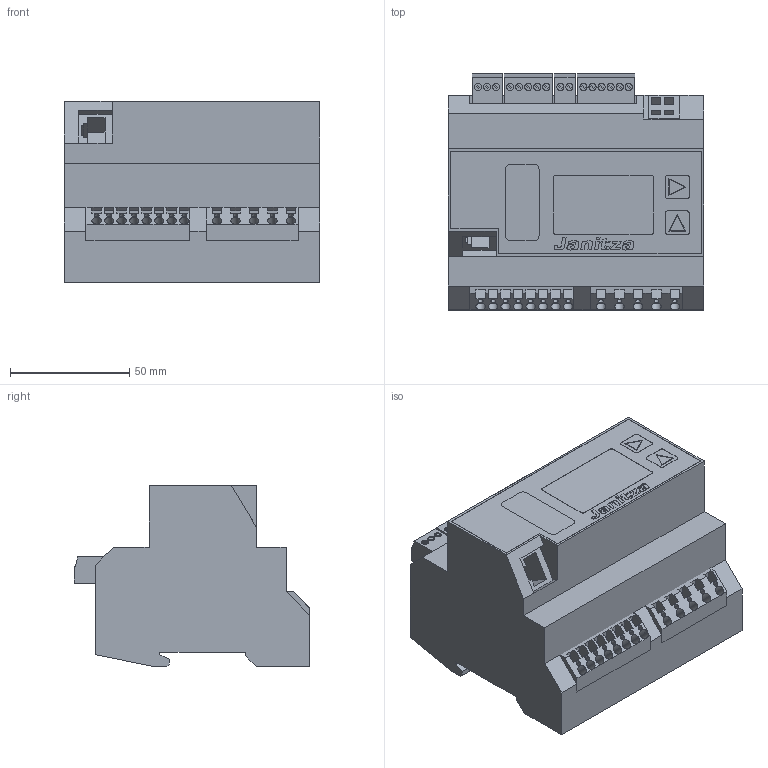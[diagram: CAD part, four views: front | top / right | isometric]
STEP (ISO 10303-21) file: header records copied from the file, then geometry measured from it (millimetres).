
FILE_DESCRIPTION((''),'2;1');
FILE_NAME('C:\Janitza\UMG604.stp','2013-04-24T20:35:10',('Potschkay'),(''),'Autodesk Inventor 7','Autodesk Inventor 7','');
FILE_SCHEMA(('AUTOMOTIVE_DESIGN { 1 0 10303 214 1 1 1 1 }'));
Length unit declared in the file: millimetre
Products named in the file (12): UMG604; RJ45; Leiste1; Leiste2; Leiste3; Leiste4; Leiste5; Leiste6; Leiste7; Blende_oP; Taste
Assembly tree (12 placements, depth 2):
  UMG604
    UMG604
    RJ45
    Leiste1
    Leiste2
    Leiste3
    Leiste4
    Leiste5
    Leiste6
    Leiste7
    Blende_oP
    Taste  x2
Bounding box: 107 x 99 x 76 mm (x, y, z)
Volume: 540307.6 mm3; surface area: 69237.8 mm2
Topology: 16 solids, 16 shells, 657 faces, 1892 edges, 1261 vertices
Faces by surface type: plane 442, cylinder 132, bspline 83
Entity records: 22606 total; most frequent: CARTESIAN_POINT 5475, ORIENTED_EDGE 3676, DIRECTION 3222, EDGE_CURVE 1838, VECTOR 1342, LINE 1342, VERTEX_POINT 1225, AXIS2_PLACEMENT_3D 940
